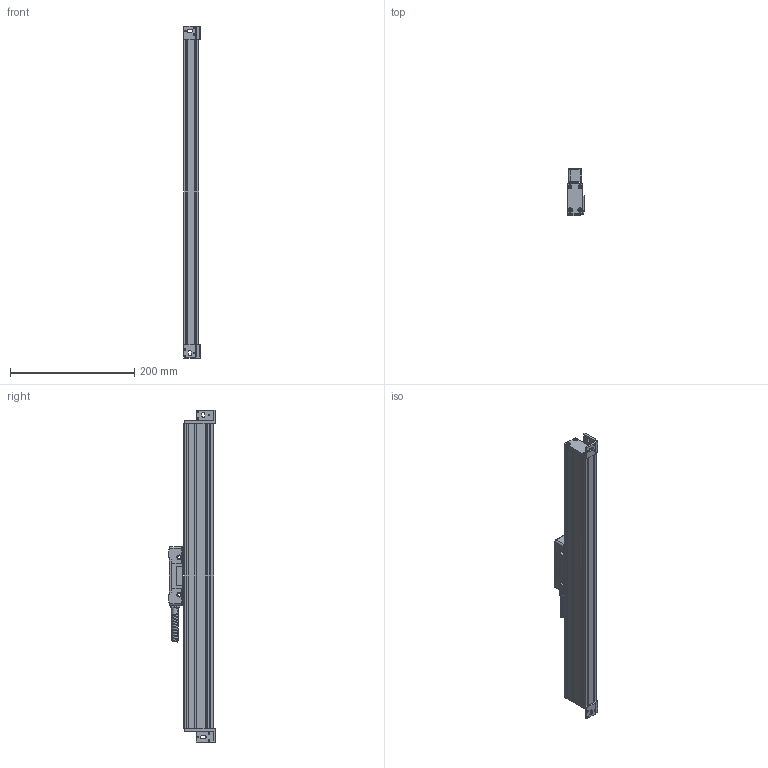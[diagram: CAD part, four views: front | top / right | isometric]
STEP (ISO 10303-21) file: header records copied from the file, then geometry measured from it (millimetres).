
FILE_DESCRIPTION (( 'STEP AP214' ), '1' );
FILE_NAME ('MLC310x0370.STEP', '2021-05-08T11:48:34', ( '' ), ( '' ), 'SwSTEP 2.0', 'SolidWorks 2014', '' );
FILE_SCHEMA (( 'AUTOMOTIVE_DESIGN' ));
Length unit declared in the file: millimetre
Products named in the file (1): MLC310x0370
Bounding box: 27 x 75.15 x 534 mm (x, y, z)
Surface area: 104668.2 mm2 (no closed solid volume)
Topology: 0 solids, 20 shells, 457 faces, 1464 edges, 1018 vertices
Faces by surface type: plane 185, cylinder 149, cone 79, bspline 34, torus 10
Entity records: 31764 total; most frequent: CARTESIAN_POINT 14234, DIRECTION 2531, ORIENTED_EDGE 2369, EDGE_CURVE 1458, VERTEX_POINT 1018, AXIS2_PLACEMENT_3D 873, LINE 785, VECTOR 785
